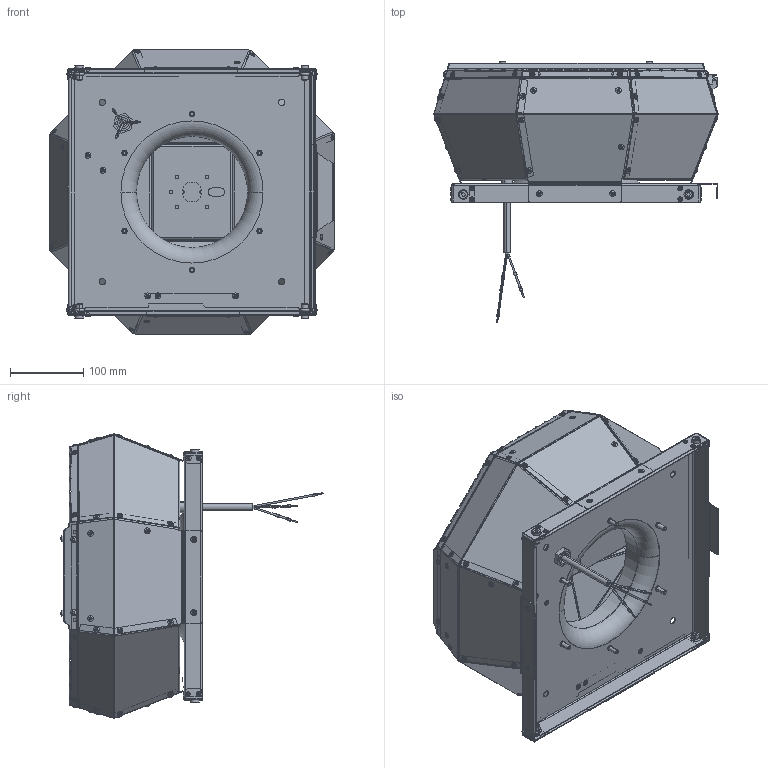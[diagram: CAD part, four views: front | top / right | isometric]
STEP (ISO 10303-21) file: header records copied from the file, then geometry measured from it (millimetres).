
FILE_DESCRIPTION (( 'STEP AP203' ), '1' );
FILE_NAME ('139339-00_DVA220E2P31.STEP', '2017-03-31T12:27:16', ( '' ), ( '' ), 'SwSTEP 2.0', 'SolidWorks 2012', '' );
FILE_SCHEMA (( 'CONFIG_CONTROL_DESIGN' ));
Products named in the file (1): 139339-00_DVA220E2P31
Bounding box: 388.45 x 357.99 x 388.42 mm (x, y, z)
Surface area: 1132232 mm2 (no closed solid volume)
Topology: 0 solids, 210 shells, 2683 faces, 8642 edges, 5850 vertices
Faces by surface type: plane 1507, cylinder 767, torus 303, bspline 80, cone 26
Entity records: 97886 total; most frequent: CARTESIAN_POINT 21469, DIRECTION 15983, ORIENTED_EDGE 14132, EDGE_CURVE 8642, VERTEX_POINT 5850, LINE 5341, VECTOR 5341, AXIS2_PLACEMENT_3D 5321
